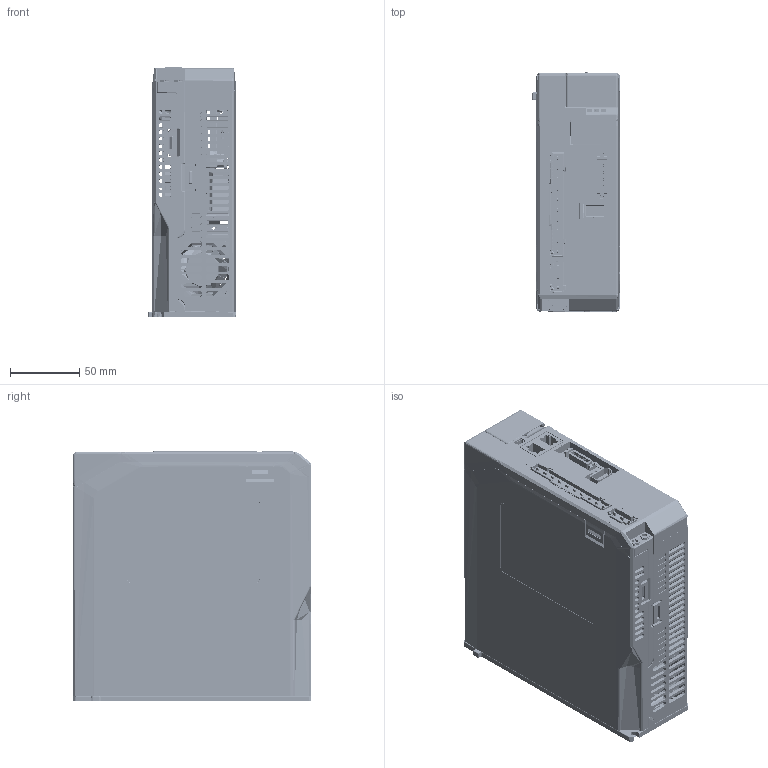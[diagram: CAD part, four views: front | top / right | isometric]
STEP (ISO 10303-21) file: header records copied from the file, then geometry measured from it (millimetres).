
FILE_DESCRIPTION (( 'STEP AP203' ), '1' );
FILE_NAME ('400VAC ,Rated power:1kW~1.5KW EtherCAT.STEP', '2024-09-10T08:05:00', ( '' ), ( '' ), 'SwSTEP 2.0', 'SolidWorks 2022', '' );
FILE_SCHEMA (( 'CONFIG_CONTROL_DESIGN' ));
Products named in the file (1): 400VAC ，Rated power：1kW~1.5KW EtherCAT
Bounding box: 63 x 172.3 x 181 mm (x, y, z)
Topology: 0 solids, 870 shells, 18282 faces, 49369 edges, 32436 vertices
Faces by surface type: plane 9352, cylinder 4306, bspline 3691, cone 871, torus 40, sphere 22
Full cylindrical faces by diameter (mm): 0.01 x10
Entity records: 697477 total; most frequent: CARTESIAN_POINT 270721, ORIENTED_EDGE 94489, DIRECTION 74945, EDGE_CURVE 48912, VERTEX_POINT 32437, VECTOR 30371, LINE 30371, AXIS2_PLACEMENT_3D 22287
